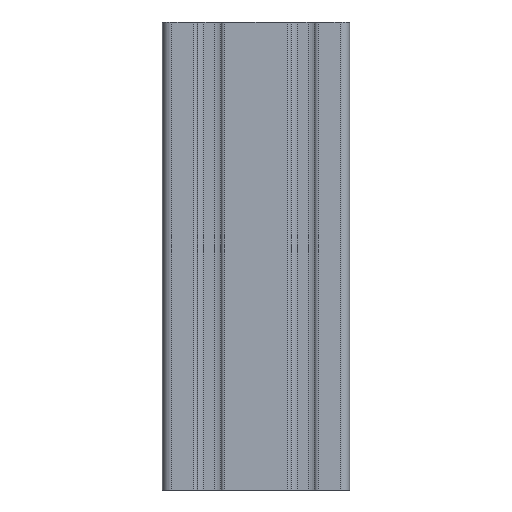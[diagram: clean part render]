
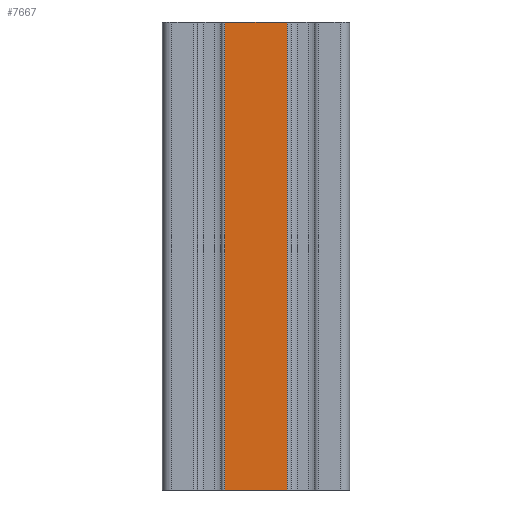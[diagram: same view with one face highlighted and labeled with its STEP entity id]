
A CAD part, front view. The second image highlights one B-rep face of the part: STEP entity #7667.
In plain terms, the highlighted planar face has unit normal (0, -1, 0).
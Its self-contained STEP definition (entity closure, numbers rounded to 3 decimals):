
#73 = PLANE('',#74);
#74 = AXIS2_PLACEMENT_3D('',#75,#76,#77);
#75 = CARTESIAN_POINT('',(-13.3,-9.2,0.));
#76 = DIRECTION('',(0.,0.,-1.));
#77 = DIRECTION('',(-1.,0.,-0.));
#123 = PLANE('',#124);
#124 = AXIS2_PLACEMENT_3D('',#125,#126,#127);
#125 = CARTESIAN_POINT('',(-13.3,-9.2,-100.));
#126 = DIRECTION('',(0.,0.,-1.));
#127 = DIRECTION('',(-1.,0.,-0.));
#7556 = CYLINDRICAL_SURFACE('',#7557,0.8);
#7557 = AXIS2_PLACEMENT_3D('',#7558,#7559,#7560);
#7558 = CARTESIAN_POINT('',(6.7,-9.2,-100.));
#7559 = DIRECTION('',(-0.,-0.,1.));
#7560 = DIRECTION('',(1.,0.,0.));
#7594 = VERTEX_POINT('',#7595);
#7595 = CARTESIAN_POINT('',(6.7,-10.,-0.));
#7617 = EDGE_CURVE('',#7618,#7594,#7620,.T.);
#7618 = VERTEX_POINT('',#7619);
#7619 = CARTESIAN_POINT('',(6.7,-10.,-100.));
#7620 = SURFACE_CURVE('',#7621,(#7625,#7632),.PCURVE_S1.);
#7621 = LINE('',#7622,#7623);
#7622 = CARTESIAN_POINT('',(6.7,-10.,-100.));
#7623 = VECTOR('',#7624,1.);
#7624 = DIRECTION('',(-0.,-0.,1.));
#7625 = PCURVE('',#7556,#7626);
#7626 = DEFINITIONAL_REPRESENTATION('',(#7627),#7631);
#7627 = LINE('',#7628,#7629);
#7628 = CARTESIAN_POINT('',(4.712,0.));
#7629 = VECTOR('',#7630,1.);
#7630 = DIRECTION('',(0.,1.));
#7631 = ( GEOMETRIC_REPRESENTATION_CONTEXT(2) 
PARAMETRIC_REPRESENTATION_CONTEXT() REPRESENTATION_CONTEXT('2D SPACE',''
  ) );
#7632 = PCURVE('',#7633,#7638);
#7633 = PLANE('',#7634);
#7634 = AXIS2_PLACEMENT_3D('',#7635,#7636,#7637);
#7635 = CARTESIAN_POINT('',(6.7,-10.,-100.));
#7636 = DIRECTION('',(0.,1.,0.));
#7637 = DIRECTION('',(0.,-0.,1.));
#7638 = DEFINITIONAL_REPRESENTATION('',(#7639),#7643);
#7639 = LINE('',#7640,#7641);
#7640 = CARTESIAN_POINT('',(0.,0.));
#7641 = VECTOR('',#7642,1.);
#7642 = DIRECTION('',(1.,-0.));
#7643 = ( GEOMETRIC_REPRESENTATION_CONTEXT(2) 
PARAMETRIC_REPRESENTATION_CONTEXT() REPRESENTATION_CONTEXT('2D SPACE',''
  ) );
#7667 = ADVANCED_FACE('',(#7668),#7633,.F.);
#7668 = FACE_BOUND('',#7669,.T.);
#7669 = EDGE_LOOP('',(#7670,#7693,#7721,#7742));
#7670 = ORIENTED_EDGE('',*,*,#7671,.T.);
#7671 = EDGE_CURVE('',#7594,#7672,#7674,.T.);
#7672 = VERTEX_POINT('',#7673);
#7673 = CARTESIAN_POINT('',(-6.7,-10.,0.));
#7674 = SURFACE_CURVE('',#7675,(#7679,#7686),.PCURVE_S1.);
#7675 = LINE('',#7676,#7677);
#7676 = CARTESIAN_POINT('',(6.7,-10.,-0.));
#7677 = VECTOR('',#7678,1.);
#7678 = DIRECTION('',(-1.,0.,0.));
#7679 = PCURVE('',#7633,#7680);
#7680 = DEFINITIONAL_REPRESENTATION('',(#7681),#7685);
#7681 = LINE('',#7682,#7683);
#7682 = CARTESIAN_POINT('',(100.,0.));
#7683 = VECTOR('',#7684,1.);
#7684 = DIRECTION('',(0.,-1.));
#7685 = ( GEOMETRIC_REPRESENTATION_CONTEXT(2) 
PARAMETRIC_REPRESENTATION_CONTEXT() REPRESENTATION_CONTEXT('2D SPACE',''
  ) );
#7686 = PCURVE('',#73,#7687);
#7687 = DEFINITIONAL_REPRESENTATION('',(#7688),#7692);
#7688 = LINE('',#7689,#7690);
#7689 = CARTESIAN_POINT('',(-20.,-0.8));
#7690 = VECTOR('',#7691,1.);
#7691 = DIRECTION('',(1.,0.));
#7692 = ( GEOMETRIC_REPRESENTATION_CONTEXT(2) 
PARAMETRIC_REPRESENTATION_CONTEXT() REPRESENTATION_CONTEXT('2D SPACE',''
  ) );
#7693 = ORIENTED_EDGE('',*,*,#7694,.F.);
#7694 = EDGE_CURVE('',#7695,#7672,#7697,.T.);
#7695 = VERTEX_POINT('',#7696);
#7696 = CARTESIAN_POINT('',(-6.7,-10.,-100.));
#7697 = SURFACE_CURVE('',#7698,(#7702,#7709),.PCURVE_S1.);
#7698 = LINE('',#7699,#7700);
#7699 = CARTESIAN_POINT('',(-6.7,-10.,-100.));
#7700 = VECTOR('',#7701,1.);
#7701 = DIRECTION('',(-0.,-0.,1.));
#7702 = PCURVE('',#7633,#7703);
#7703 = DEFINITIONAL_REPRESENTATION('',(#7704),#7708);
#7704 = LINE('',#7705,#7706);
#7705 = CARTESIAN_POINT('',(0.,-13.4));
#7706 = VECTOR('',#7707,1.);
#7707 = DIRECTION('',(1.,-0.));
#7708 = ( GEOMETRIC_REPRESENTATION_CONTEXT(2) 
PARAMETRIC_REPRESENTATION_CONTEXT() REPRESENTATION_CONTEXT('2D SPACE',''
  ) );
#7709 = PCURVE('',#7710,#7715);
#7710 = CYLINDRICAL_SURFACE('',#7711,0.8);
#7711 = AXIS2_PLACEMENT_3D('',#7712,#7713,#7714);
#7712 = CARTESIAN_POINT('',(-6.7,-9.2,-100.));
#7713 = DIRECTION('',(-0.,-0.,1.));
#7714 = DIRECTION('',(1.,0.,0.));
#7715 = DEFINITIONAL_REPRESENTATION('',(#7716),#7720);
#7716 = LINE('',#7717,#7718);
#7717 = CARTESIAN_POINT('',(4.712,0.));
#7718 = VECTOR('',#7719,1.);
#7719 = DIRECTION('',(0.,1.));
#7720 = ( GEOMETRIC_REPRESENTATION_CONTEXT(2) 
PARAMETRIC_REPRESENTATION_CONTEXT() REPRESENTATION_CONTEXT('2D SPACE',''
  ) );
#7721 = ORIENTED_EDGE('',*,*,#7722,.F.);
#7722 = EDGE_CURVE('',#7618,#7695,#7723,.T.);
#7723 = SURFACE_CURVE('',#7724,(#7728,#7735),.PCURVE_S1.);
#7724 = LINE('',#7725,#7726);
#7725 = CARTESIAN_POINT('',(6.7,-10.,-100.));
#7726 = VECTOR('',#7727,1.);
#7727 = DIRECTION('',(-1.,0.,0.));
#7728 = PCURVE('',#7633,#7729);
#7729 = DEFINITIONAL_REPRESENTATION('',(#7730),#7734);
#7730 = LINE('',#7731,#7732);
#7731 = CARTESIAN_POINT('',(0.,0.));
#7732 = VECTOR('',#7733,1.);
#7733 = DIRECTION('',(0.,-1.));
#7734 = ( GEOMETRIC_REPRESENTATION_CONTEXT(2) 
PARAMETRIC_REPRESENTATION_CONTEXT() REPRESENTATION_CONTEXT('2D SPACE',''
  ) );
#7735 = PCURVE('',#123,#7736);
#7736 = DEFINITIONAL_REPRESENTATION('',(#7737),#7741);
#7737 = LINE('',#7738,#7739);
#7738 = CARTESIAN_POINT('',(-20.,-0.8));
#7739 = VECTOR('',#7740,1.);
#7740 = DIRECTION('',(1.,0.));
#7741 = ( GEOMETRIC_REPRESENTATION_CONTEXT(2) 
PARAMETRIC_REPRESENTATION_CONTEXT() REPRESENTATION_CONTEXT('2D SPACE',''
  ) );
#7742 = ORIENTED_EDGE('',*,*,#7617,.T.);
